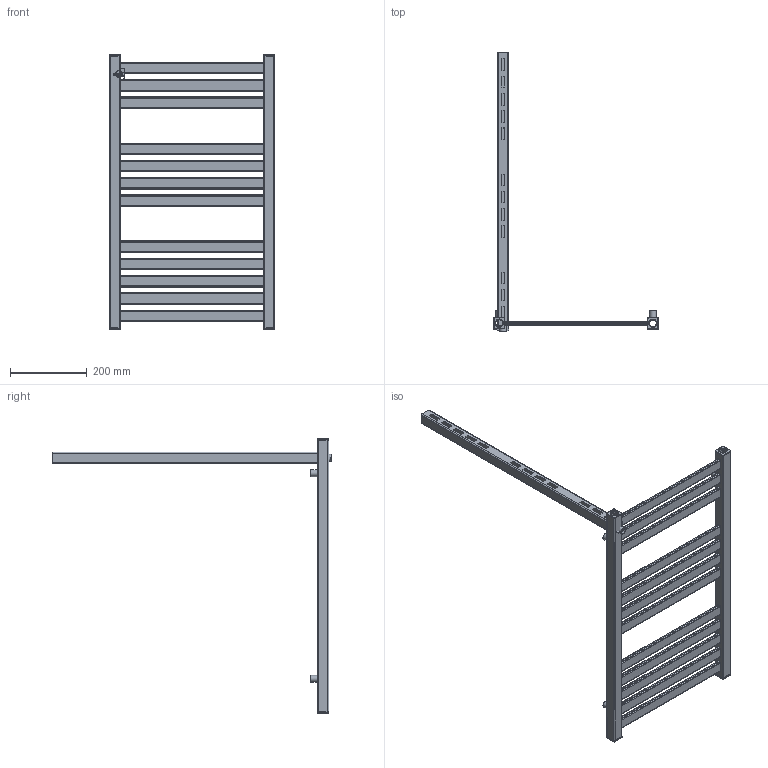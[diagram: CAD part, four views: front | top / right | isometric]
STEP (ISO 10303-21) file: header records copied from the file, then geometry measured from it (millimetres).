
FILE_DESCRIPTION( ( 'Unknown' ), '1' );
FILE_NAME( 'D:/Alplast sp. j/Witryna zespoBu - Projekty/Archiwum/Grzejniki Archiwum/Projekty/STANDARD/AK-EP/AK2-400EP.stp', 'Unknown', ( 'Unknown' ), ( 'Unknown' ), 'PSStep 10.1', 'Unknown', ' ' );
FILE_SCHEMA( ( 'AUTOMOTIVE_DESIGN { 1 0 10303 214 1 1 1 1 }' ) );
Length unit declared in the file: millimetre
Products named in the file (5): Assem1; zaslepka kwadrat otwor; AK2-EPEL; kana³  poziomy 30x10  400; mocowanie
Bounding box: 430 x 729 x 715.13 mm (x, y, z)
Volume: 873070.4 mm3; surface area: 1176414.6 mm2
Topology: 26 solids, 26 shells, 677 faces, 1845 edges, 1230 vertices
Faces by surface type: plane 374, cylinder 293, torus 10
Full cylindrical faces by diameter (mm): 16 x5, 18 x5, 18.631 x5, 23 x5
Entity records: 6569 total; most frequent: DIRECTION 941, CARTESIAN_POINT 905, ORIENTED_EDGE 866, EDGE_CURVE 433, AXIS2_PLACEMENT_3D 328, VERTEX_POINT 292, LINE 285, VECTOR 285
